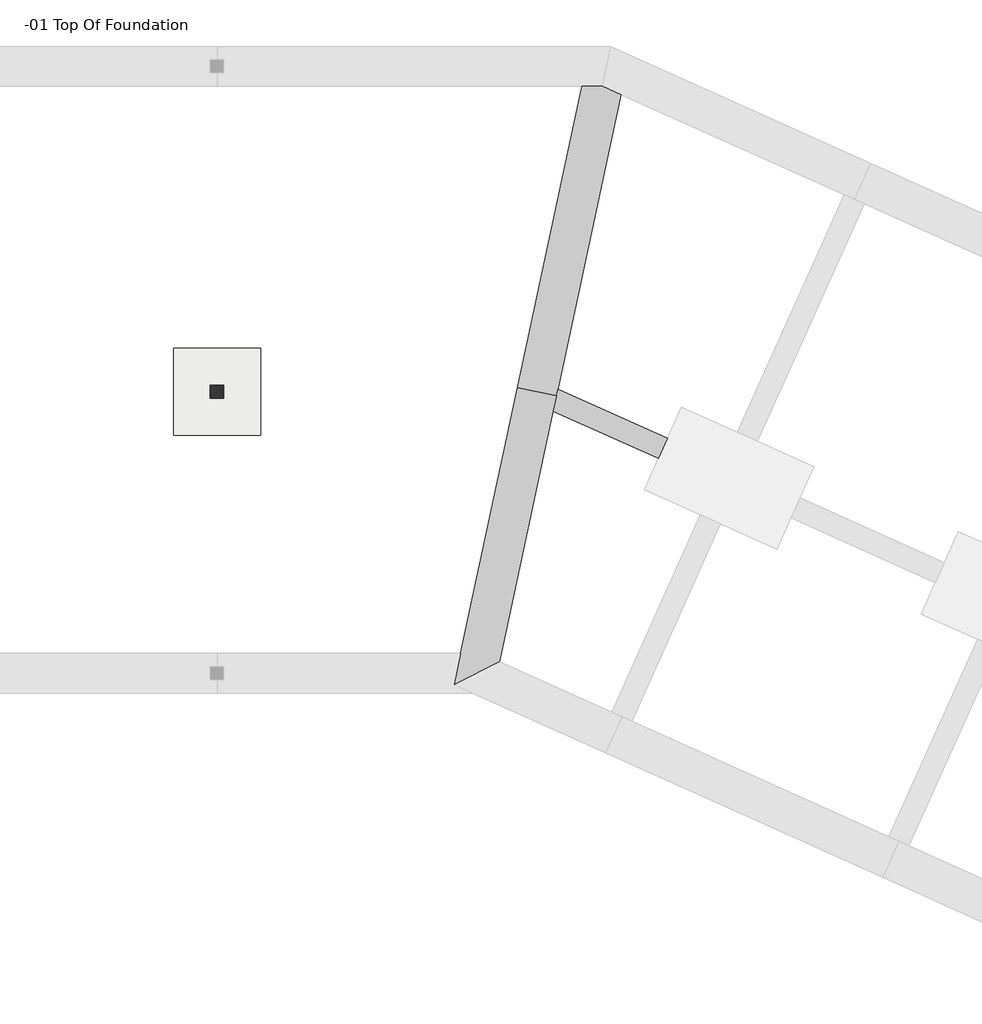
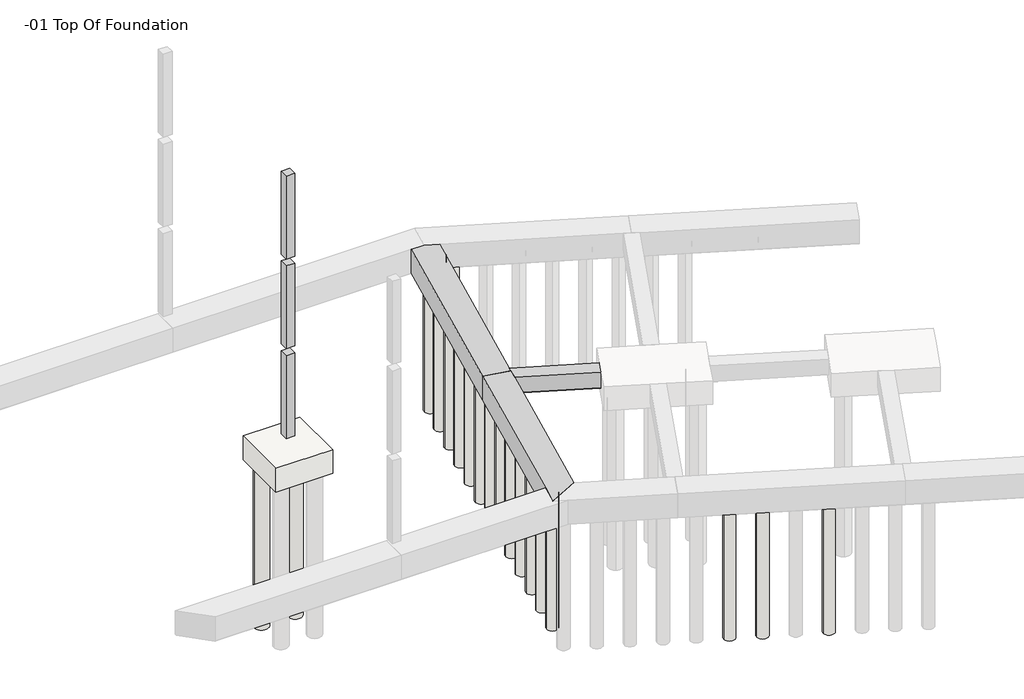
# One storey, part 2 of 6: 20 slabs, 3 beams, 1 column.
"""IFC4 building model written with IfcOpenShell, lengths in millimetres."""

import ifcopenshell
import ifcopenshell.guid

model = None  # the IFC model being written
_history = None  # IfcOwnerHistory: only IFC2X3 demands one
_inside = {}  # id of a spatial element -> (the spatial element, [elements in it])
_under = {}  # id of a project, library or spatial element -> (it, [spatial elements below it])
_declared = {}  # id of a project -> (the project, [libraries it declares])
_typed = {}  # id of a type object -> (the type object, [elements of that type])
_made_of = {}  # id of a material, layer set ... -> (it, [elements and type objects made of it])


def new_model(schema):
    """Start an empty IFC model of exactly this schema.

    Asked for "IFC4X3", IfcOpenShell would pick the latest addendum, in which some entities
    have other attributes; the version numbers below select the first issue.
    IFC2X3 requires an IfcOwnerHistory on every rooted entity: one is made here for all.
    """
    global model, _history
    if schema == "IFC4X3":
        model = ifcopenshell.file(schema_version=(4, 3, 0, 0))
    else:
        model = ifcopenshell.file(schema=schema)
    _inside.clear()
    _under.clear()
    _declared.clear()
    _typed.clear()
    _made_of.clear()
    _history = None
    if model.schema == "IFC2X3":
        org = make("IfcOrganization", Name="unknown")
        user = make(
            "IfcPersonAndOrganization",
            ThePerson=make("IfcPerson", FamilyName="unknown"),
            TheOrganization=org,
        )
        app = make(
            "IfcApplication",
            ApplicationDeveloper=org,
            Version="unknown",
            ApplicationFullName="unknown",
            ApplicationIdentifier="unknown",
        )
        _history = make(
            "IfcOwnerHistory",
            OwningUser=user,
            OwningApplication=app,
            ChangeAction="ADDED",
            CreationDate=0,
        )
    return model


def make(cls, **values):
    """One entity of the class cls with the attributes given. An attribute that is None is left unset."""
    return model.create_entity(
        cls, **{name: value for name, value in values.items() if value is not None}
    )


def rooted(cls, **values):
    """An entity with a GlobalId (a new one), such as an element, a storey or a relation."""
    return make(cls, GlobalId=ifcopenshell.guid.new(), OwnerHistory=_history, **values)


def si_unit(unit_type, name, prefix=None):
    """IfcSIUnit, for example si_unit("LENGTHUNIT", "METRE", prefix="MILLI")."""
    return make("IfcSIUnit", UnitType=unit_type, Prefix=prefix, Name=name)


def assignment(units):
    """IfcUnitAssignment: the units of a project."""
    return None if units is None else make("IfcUnitAssignment", Units=units)


def point(xyz):
    """IfcCartesianPoint."""
    return None if xyz is None else make("IfcCartesianPoint", Coordinates=xyz)


def direction(xyz):
    """IfcDirection."""
    return None if xyz is None else make("IfcDirection", DirectionRatios=xyz)


def frame(location, z_axis=None, x_axis=None):
    """IfcAxis2Placement3D, a coordinate frame: its origin and axes. An axis left out is left unset."""
    return make(
        "IfcAxis2Placement3D",
        Location=point(location),
        Axis=direction(z_axis),
        RefDirection=direction(x_axis),
    )


def frame_2d(location, x_axis=None):
    """IfcAxis2Placement2D, a coordinate frame in the plane: its origin and x axis."""
    return make(
        "IfcAxis2Placement2D", Location=point(location), RefDirection=direction(x_axis)
    )


def origin():
    """The frame at (0, 0, 0) with its axes left unset."""
    return frame((0.0, 0.0, 0.0))


def origin_with_axes():
    """The frame at (0, 0, 0) with the z axis (0, 0, 1) and the x axis (1, 0, 0) written out."""
    return frame((0.0, 0.0, 0.0), z_axis=(0.0, 0.0, 1.0), x_axis=(1.0, 0.0, 0.0))


def place(relative_to, where):
    """IfcLocalPlacement: puts the frame where relative to a parent placement (None: the world)."""
    return make(
        "IfcLocalPlacement", PlacementRelTo=relative_to, RelativePlacement=where
    )


def context(
    kind, dimensions, precision=None, world=None, true_north=None, identifier=None
):
    """IfcGeometricRepresentationContext, for example the 3D "Model" context."""
    return make(
        "IfcGeometricRepresentationContext",
        ContextIdentifier=identifier,
        ContextType=kind,
        CoordinateSpaceDimension=dimensions,
        Precision=precision,
        WorldCoordinateSystem=world,
        TrueNorth=true_north,
    )


def project(units=None, contexts=None):
    """IfcProject with its units and contexts."""
    return rooted(
        "IfcProject",
        Name="project",
        RepresentationContexts=contexts,
        UnitsInContext=assignment(units),
    )


def spatial(cls, under=None, at=None, **own):
    """A site, building, storey or space (cls), placed at a placement, below another one or the project."""
    s = rooted(cls, ObjectPlacement=at, **own)
    if under is not None:
        _under.setdefault(under.id(), (under, []))[1].append(s)
    return s


def polyline(points):
    """IfcPolyline through the points."""
    return make("IfcPolyline", Points=[point(p) for p in points])


def circle_curve(where, radius):
    """IfcCircle in the frame where."""
    return make("IfcCircle", Position=where, Radius=radius)


def trimmed(basis, trim1, trim2, sense, master):
    """IfcTrimmedCurve: the piece of a basis curve between two trims."""
    return make(
        "IfcTrimmedCurve",
        BasisCurve=basis,
        Trim1=trim1,
        Trim2=trim2,
        SenseAgreement=sense,
        MasterRepresentation=master,
    )


def segment(curve, same_sense, transition):
    """IfcCompositeCurveSegment."""
    return make(
        "IfcCompositeCurveSegment",
        Transition=transition,
        SameSense=same_sense,
        ParentCurve=curve,
    )


def composite_curve(segments, self_intersect=None):
    """IfcCompositeCurve: segments joined end to end."""
    return make("IfcCompositeCurve", Segments=segments, SelfIntersect=self_intersect)


def outline(outer, holes=None, kind="AREA"):
    """IfcArbitraryClosedProfileDef: a profile drawn as a closed curve; with holes, ...WithVoids."""
    if holes is None:
        return make("IfcArbitraryClosedProfileDef", ProfileType=kind, OuterCurve=outer)
    return make(
        "IfcArbitraryProfileDefWithVoids",
        ProfileType=kind,
        OuterCurve=outer,
        InnerCurves=holes,
    )


def extrude(swept, where, along, depth):
    """IfcExtrudedAreaSolid: the profile swept, set in the frame where, extruded along a direction by depth."""
    return make(
        "IfcExtrudedAreaSolid",
        SweptArea=swept,
        Position=where,
        ExtrudedDirection=direction(along),
        Depth=depth,
    )


def faces_of(points, faces, orient=None, outer=None):
    """IfcFace entities. A face is a list of loops; a loop is a list of indices into points, from 0.

    orient and outer hold one flag for each loop. By default every Orientation is true, the
    first loop of a face is its IfcFaceOuterBound and the others are IfcFaceBound.
    """
    made = []
    for i, loops in enumerate(faces):
        bounds = []
        for j, loop in enumerate(loops):
            is_outer = j == 0 if outer is None else outer[i][j]
            bounds.append(
                make(
                    "IfcFaceOuterBound" if is_outer else "IfcFaceBound",
                    Bound=make("IfcPolyLoop", Polygon=[points[k] for k in loop]),
                    Orientation=True if orient is None else orient[i][j],
                )
            )
        made.append(make("IfcFace", Bounds=bounds))
    return made


def faceted_brep(points, faces, orient=None, outer=None, voids=None):
    """IfcFacetedBrep: a solid bounded by flat faces; with voids (closed shells), ...WithVoids."""
    shared = [point(p) for p in points]
    hull = make("IfcClosedShell", CfsFaces=faces_of(shared, faces, orient, outer))
    if voids is None:
        return make("IfcFacetedBrep", Outer=hull)
    return make(
        "IfcFacetedBrepWithVoids",
        Outer=hull,
        Voids=[
            make(cls, CfsFaces=faces_of(shared, fs, o, b)) for cls, fs, o, b in voids
        ],
    )


def shape(context_of_items, identifier, shape_type, items):
    """IfcShapeRepresentation: the items that make up one representation, for example the "Body"."""
    return make(
        "IfcShapeRepresentation",
        ContextOfItems=context_of_items,
        RepresentationIdentifier=identifier,
        RepresentationType=shape_type,
        Items=items,
    )


def made_of(thing, what):
    """Note that an element or type object is made of a material, layer set ...; save() writes the relation."""
    if what is not None:
        _made_of.setdefault(what.id(), (what, []))[1].append(thing)
    return thing


def element(
    cls,
    number,
    at=None,
    inside=None,
    cuts=None,
    type_object=None,
    material=None,
    context=None,
    identifier="Body",
    shape_type=None,
    held_by="IfcProductDefinitionShape",
    body=None,
    shapes=None,
    **own,
):
    """One element of the class cls, such as IfcWall. Its Tag is "e" and its number.

    at: its placement. inside: the storey or other place that contains it. cuts: it is an
    opening in that element (IfcRelVoidsElement). A single representation is given by context,
    identifier, shape_type and body (its items); several are given by shapes. held_by: the class
    of the entity that holds the representations. save() writes the other relations.
    """
    e = rooted(cls, Tag="e%d" % number, ObjectPlacement=at, **own)
    if body is not None:
        shapes = [shape(context, identifier, shape_type, body)]
    if shapes is not None:
        e.Representation = make(held_by, Representations=shapes)
    if inside is not None:
        _inside.setdefault(inside.id(), (inside, []))[1].append(e)
    if cuts is not None:
        rooted(
            "IfcRelVoidsElement", RelatingBuildingElement=cuts, RelatedOpeningElement=e
        )
    if type_object is not None:
        _typed.setdefault(type_object.id(), (type_object, []))[1].append(e)
    return made_of(e, material)


def aggregate(whole, parts):
    """IfcRelAggregates: a whole, such as a stair, and the parts it consists of."""
    return rooted("IfcRelAggregates", RelatingObject=whole, RelatedObjects=parts)


def save(model, path):
    """Write the relations noted so far, then the file.

    IfcRelAggregates (storeys below a building ...), IfcRelContainedInSpatialStructure (elements
    in a storey), IfcRelDefinesByType, IfcRelAssociatesMaterial and IfcRelDeclares: one each for
    every whole, place, type object, material and project.
    """
    for whole, parts in _under.values():
        aggregate(whole, parts)
    for where, things in _inside.values():
        rooted(
            "IfcRelContainedInSpatialStructure",
            RelatedElements=things,
            RelatingStructure=where,
        )
    for kind, things in _typed.values():
        rooted("IfcRelDefinesByType", RelatedObjects=things, RelatingType=kind)
    for what, things in _made_of.values():
        rooted("IfcRelAssociatesMaterial", RelatedObjects=things, RelatingMaterial=what)
    for by, libraries in _declared.values():
        rooted("IfcRelDeclares", RelatingContext=by, RelatedDefinitions=libraries)
    model.write(path)


def plane_surface(at):
    """IfcPlane: the flat surface through the origin of the frame at, square to its z axis."""
    return make("IfcPlane", Position=at)


def revolved_surface(curve, axis_point, axis_direction):
    """IfcSurfaceOfRevolution: the curve turned about the line through axis_point along axis_direction."""
    return make(
        "IfcSurfaceOfRevolution",
        SweptCurve=make("IfcArbitraryOpenProfileDef", ProfileType="CURVE", Curve=curve),
        AxisPosition=make("IfcAxis1Placement", Location=point(axis_point), Axis=direction(axis_direction)),
    )


def advanced_brep(points, edges, surfaces, faces):
    """IfcAdvancedBrep: a solid bounded by faces that lie on surfaces and meet in shared edges.

    An edge is (start, end): straight between two places in points (the first is 0);
    or (start, end, curve); or (start, end, curve, False) where it runs against its curve.
    A face is (place in surfaces, loops), or (place, loops, False) where it looks against
    its surface's normal. A loop lists edges by number (the first is 1), with a minus sign
    where the edge is run from its end to its start. The first loop is the outer one.
    """
    corners = [point(p) for p in points]
    vertices = [make("IfcVertexPoint", VertexGeometry=c) for c in corners]
    made = []
    for start, end, *more in edges:
        made.append(
            make(
                "IfcEdgeCurve",
                EdgeStart=vertices[start],
                EdgeEnd=vertices[end],
                EdgeGeometry=more[0] if more else make("IfcPolyline", Points=[corners[start], corners[end]]),
                SameSense=more[1] if len(more) > 1 else True,
            )
        )
    hull = []
    for where, loops, *sense in faces:
        bounds = []
        for j, loop in enumerate(loops):
            ring = [make("IfcOrientedEdge", EdgeElement=made[abs(k) - 1], Orientation=k > 0) for k in loop]
            bounds.append(
                make(
                    "IfcFaceOuterBound" if j == 0 else "IfcFaceBound",
                    Bound=make("IfcEdgeLoop", EdgeList=ring),
                    Orientation=True,
                )
            )
        hull.append(make("IfcAdvancedFace", Bounds=bounds, FaceSurface=surfaces[where], SameSense=sense[0] if sense else True))
    return make("IfcAdvancedBrep", Outer=make("IfcClosedShell", CfsFaces=hull))


model = new_model("IFC4")

# Units and contexts
model_context = context("Model", 3, world=origin())
ifc_project = project(units=[si_unit("LENGTHUNIT", "METRE", prefix="MILLI")], contexts=[model_context])

# Site, building, storey
site = spatial("IfcSite", under=ifc_project)
building = spatial("IfcBuilding", under=site)
storey = spatial("IfcBuildingStorey", under=building, Name="-01 Top Of Foundation", Elevation=-304.8)

# Beams
placement = place(None, origin())
element("IfcBeam", 1, ObjectType="Ring Beam : 12 x 24", at=placement, inside=storey, context=model_context, shape_type="Brep", body=[
    faceted_brep([(29873.354996, -7443.2933987, -304.8), (29839.4542887, -7601.4966994, -304.8), (29764.4978532, -7951.2933987, -304.8), (32188.6819449, -9040.2317073, -304.8), (32396.8380425, -8576.8365854, -304.8), (29764.4978532, -7951.2933987, -889.0), (32188.6819449, -9040.2317073, -889.0), (29769.9407103, -7925.8933987, -914.4), (32199.0897498, -9017.0619512, -914.4), (29867.9121389, -7468.6933987, -914.4), (32386.4302376, -8600.0063415, -914.4), (29873.354996, -7443.2933987, -889.0), (32396.8380425, -8576.8365854, -889.0)], [[[0, 1, 2, 3, 4]], [[2, 5, 6, 3]], [[5, 7, 8, 6]], [[7, 9, 10, 8]], [[9, 11, 12, 10]], [[11, 0, 4, 12]], [[11, 9, 7, 5, 2, 1, 0]], [[4, 3, 6, 8, 10, 12]]]),
])
element("IfcBeam", 2, ObjectType="Ring Beam : 16 x 32", at=placement, inside=storey, context=model_context, shape_type="AdvancedBrep", body=[
    advanced_brep(
    [(28945.3517613, -7409.9033006, -1193.8), (28945.3517613, -7409.9033006, -304.8), (30435.2167543, -457.2, -304.8), (30435.2167543, -457.2, -1193.8), (29839.4542887, -7601.4966994, -304.8), (29873.354996, -7443.2933987, -304.8), (31329.3192817, -648.7933987, -304.8), (30902.7958822, -457.2, -304.8), (28970.1879426, -7415.2253395, -1219.2), (30466.6362297, -431.8, -1219.2), (29814.6181074, -7596.1746605, -1219.2), (30908.2387393, -431.8, -1219.2), (31311.0663945, -612.749321, -1219.2), (30584.6857566, -993.4472527, -1219.2), (30991.0857566, -993.4472527, -1219.2), (30371.8042024, -1986.8945054, -1219.2), (30778.2042024, -1986.8945054, -1219.2), (30158.9226483, -2980.3417581, -1219.2), (30565.3226483, -2980.3417581, -1219.2), (29946.0410941, -3973.7890108, -1219.2), (30352.4410941, -3973.7890108, -1219.2), (29733.15954, -4967.2362635, -1219.2), (30139.55954, -4967.2362635, -1219.2), (29520.2779858, -5960.6835162, -1219.2), (29926.6779858, -5960.6835162, -1219.2), (29307.3964317, -6954.1307689, -1219.2), (29713.7964317, -6954.1307689, -1219.2), (31329.3192817, -648.7933987, -1193.8), (29839.4542887, -7601.4966994, -1193.8), (30902.7958822, -457.2, -1193.8), (30991.0857566, -993.4472527, -1066.8), (30584.6857566, -993.4472527, -1066.8), (30778.2042024, -1986.8945054, -1066.8), (30371.8042024, -1986.8945054, -1066.8), (30565.3226483, -2980.3417581, -1066.8), (30158.9226483, -2980.3417581, -1066.8), (30352.4410941, -3973.7890108, -1066.8), (29946.0410941, -3973.7890108, -1066.8), (30139.55954, -4967.2362635, -1066.8), (29733.15954, -4967.2362635, -1066.8), (29926.6779858, -5960.6835162, -1066.8), (29520.2779858, -5960.6835162, -1066.8), (29713.7964317, -6954.1307689, -1066.8), (29307.3964317, -6954.1307689, -1066.8)],
    [
        (0, 1),
        (1, 2),
        (2, 3),
        (3, 0),
        (1, 4),
        (4, 5),
        (5, 6),
        (6, 7),
        (7, 2),
        (8, 0),
        (3, 9),
        (9, 8),
        (10, 8),
        (9, 11),
        (11, 12),
        (12, 10),
        (13, 14, circle_curve(frame((30787.8857566, -993.4472527, -1219.2), z_axis=(0.0, 0.0, 1.0), x_axis=(1.0, 0.0, 0.0)), 203.2)),
        (14, 13, circle_curve(frame((30787.8857566, -993.4472527, -1219.2), z_axis=(0.0, 0.0, 1.0), x_axis=(1.0, 0.0, 0.0)), 203.2)),
        (15, 16, circle_curve(frame((30575.0042024, -1986.8945054, -1219.2), z_axis=(0.0, 0.0, 1.0), x_axis=(1.0, 0.0, 0.0)), 203.2)),
        (16, 15, circle_curve(frame((30575.0042024, -1986.8945054, -1219.2), z_axis=(0.0, 0.0, 1.0), x_axis=(1.0, 0.0, 0.0)), 203.2)),
        (17, 18, circle_curve(frame((30362.1226483, -2980.3417581, -1219.2), z_axis=(0.0, 0.0, 1.0), x_axis=(1.0, 0.0, 0.0)), 203.2)),
        (18, 17, circle_curve(frame((30362.1226483, -2980.3417581, -1219.2), z_axis=(0.0, 0.0, 1.0), x_axis=(1.0, 0.0, 0.0)), 203.2)),
        (19, 20, circle_curve(frame((30149.2410941, -3973.7890108, -1219.2), z_axis=(0.0, 0.0, 1.0), x_axis=(1.0, 0.0, 0.0)), 203.2)),
        (20, 19, circle_curve(frame((30149.2410941, -3973.7890108, -1219.2), z_axis=(0.0, 0.0, 1.0), x_axis=(1.0, 0.0, 0.0)), 203.2)),
        (21, 22, circle_curve(frame((29936.35954, -4967.2362635, -1219.2), z_axis=(0.0, 0.0, 1.0), x_axis=(1.0, 0.0, 0.0)), 203.2)),
        (22, 21, circle_curve(frame((29936.35954, -4967.2362635, -1219.2), z_axis=(0.0, 0.0, 1.0), x_axis=(1.0, 0.0, 0.0)), 203.2)),
        (23, 24, circle_curve(frame((29723.4779858, -5960.6835162, -1219.2), z_axis=(0.0, 0.0, 1.0), x_axis=(1.0, 0.0, 0.0)), 203.2)),
        (24, 23, circle_curve(frame((29723.4779858, -5960.6835162, -1219.2), z_axis=(0.0, 0.0, 1.0), x_axis=(1.0, 0.0, 0.0)), 203.2)),
        (25, 26, circle_curve(frame((29510.5964317, -6954.1307689, -1219.2), z_axis=(0.0, 0.0, 1.0), x_axis=(1.0, 0.0, 0.0)), 203.2)),
        (26, 25, circle_curve(frame((29510.5964317, -6954.1307689, -1219.2), z_axis=(0.0, 0.0, 1.0), x_axis=(1.0, 0.0, 0.0)), 203.2)),
        (12, 27),
        (27, 28),
        (28, 10),
        (27, 6),
        (4, 28),
        (11, 29),
        (29, 27),
        (29, 7),
        (30, 31, circle_curve(frame((30787.8857566, -993.4472527, -1066.8), z_axis=(0.0, 0.0, -1.0), x_axis=(1.0, 0.0, 0.0)), 203.2)),
        (31, 30, circle_curve(frame((30787.8857566, -993.4472527, -1066.8), z_axis=(0.0, 0.0, -1.0), x_axis=(1.0, 0.0, 0.0)), 203.2)),
        (30, 14),
        (13, 31),
        (32, 33, circle_curve(frame((30575.0042024, -1986.8945054, -1066.8), z_axis=(0.0, 0.0, -1.0), x_axis=(1.0, 0.0, 0.0)), 203.2)),
        (33, 32, circle_curve(frame((30575.0042024, -1986.8945054, -1066.8), z_axis=(0.0, 0.0, -1.0), x_axis=(1.0, 0.0, 0.0)), 203.2)),
        (32, 16),
        (15, 33),
        (34, 35, circle_curve(frame((30362.1226483, -2980.3417581, -1066.8), z_axis=(0.0, 0.0, -1.0), x_axis=(1.0, 0.0, 0.0)), 203.2)),
        (35, 34, circle_curve(frame((30362.1226483, -2980.3417581, -1066.8), z_axis=(0.0, 0.0, -1.0), x_axis=(1.0, 0.0, 0.0)), 203.2)),
        (34, 18),
        (17, 35),
        (36, 37, circle_curve(frame((30149.2410941, -3973.7890108, -1066.8), z_axis=(0.0, 0.0, -1.0), x_axis=(1.0, 0.0, 0.0)), 203.2)),
        (37, 36, circle_curve(frame((30149.2410941, -3973.7890108, -1066.8), z_axis=(0.0, 0.0, -1.0), x_axis=(1.0, 0.0, 0.0)), 203.2)),
        (36, 20),
        (19, 37),
        (38, 39, circle_curve(frame((29936.35954, -4967.2362635, -1066.8), z_axis=(0.0, 0.0, -1.0), x_axis=(1.0, 0.0, 0.0)), 203.2)),
        (39, 38, circle_curve(frame((29936.35954, -4967.2362635, -1066.8), z_axis=(0.0, 0.0, -1.0), x_axis=(1.0, 0.0, 0.0)), 203.2)),
        (38, 22),
        (21, 39),
        (40, 41, circle_curve(frame((29723.4779858, -5960.6835162, -1066.8), z_axis=(0.0, 0.0, -1.0), x_axis=(1.0, 0.0, 0.0)), 203.2)),
        (41, 40, circle_curve(frame((29723.4779858, -5960.6835162, -1066.8), z_axis=(0.0, 0.0, -1.0), x_axis=(1.0, 0.0, 0.0)), 203.2)),
        (40, 24),
        (23, 41),
        (42, 43, circle_curve(frame((29510.5964317, -6954.1307689, -1066.8), z_axis=(0.0, 0.0, -1.0), x_axis=(1.0, 0.0, 0.0)), 203.2)),
        (43, 42, circle_curve(frame((29510.5964317, -6954.1307689, -1066.8), z_axis=(0.0, 0.0, -1.0), x_axis=(1.0, 0.0, 0.0)), 203.2)),
        (42, 26),
        (25, 43),
        (3, 29),
    ],
    [
        plane_surface(frame((29000.0518051, -7154.6364295, -304.8), z_axis=(-0.9778024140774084, 0.20952908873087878, 0.0), x_axis=(0.20952908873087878, 0.9778024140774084, 0.0))),
        plane_surface(frame((29894.1543326, -7346.2298282, -304.8), z_axis=(0.0, 0.0, 1.0000000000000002), x_axis=(0.20952908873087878, 0.9778024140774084, 0.0))),
        plane_surface(frame((29000.0518051, -7154.6364295, -1193.8), z_axis=(-0.6914107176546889, 0.14815943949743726, -0.7071067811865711), x_axis=(0.20952908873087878, 0.9778024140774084, 0.0))),
        plane_surface(frame((29024.8879864, -7159.9584683, -1219.2), z_axis=(0.0, 0.0, -1.0000000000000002), x_axis=(0.20952908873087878, 0.9778024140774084, 0.0))),
        plane_surface(frame((29869.3181512, -7340.9077894, -1219.2), z_axis=(0.691410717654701, -0.14815943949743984, -0.7071067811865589), x_axis=(0.20952908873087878, 0.9778024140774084, 0.0))),
        plane_surface(frame((29894.1543326, -7346.2298282, -1193.8), z_axis=(0.9778024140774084, -0.20952908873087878, 0.0), x_axis=(0.20952908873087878, 0.9778024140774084, 0.0))),
        plane_surface(frame((31351.3119647, -630.8275451, -1219.2), z_axis=(0.2897413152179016, 0.645019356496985, 0.7071067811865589), x_axis=(0.9121951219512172, -0.40975609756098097, 0.0))),
        plane_surface(frame((31340.9041598, -653.9973012, -1193.8), z_axis=(0.40975609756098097, 0.9121951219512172, 0.0), x_axis=(0.9121951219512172, -0.40975609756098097, 0.0))),
        plane_surface(frame((29392.403025, -7505.7, -304.8), z_axis=(-0.20952908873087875, -0.9778024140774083, 0.0), x_axis=(0.9778024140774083, -0.20952908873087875, 0.0))),
        plane_surface(frame((30991.0857566, -993.4472527, -1066.8), z_axis=(0.0, 0.0, -1.0), x_axis=(0.0, 1.0, 0.0))),
        revolved_surface(polyline([(30991.0857566, -993.4472527, -1066.8000000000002), (30991.0857566, -993.4472527, -1219.1999999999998)]), (30787.8857566, -993.4472527, -6096.0), (0.0, 0.0, 1.0)),
        plane_surface(frame((30778.2042024, -1986.8945054, -1066.8), z_axis=(0.0, 0.0, -1.0), x_axis=(0.0, 1.0, 0.0))),
        revolved_surface(polyline([(30778.2042024, -1986.8945054, -1066.8000000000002), (30778.2042024, -1986.8945054, -1219.1999999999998)]), (30575.0042024, -1986.8945054, -6096.0), (0.0, 0.0, 1.0)),
        plane_surface(frame((30565.3226483, -2980.3417581, -1066.8), z_axis=(0.0, 0.0, -1.0), x_axis=(0.0, 1.0, 0.0))),
        revolved_surface(polyline([(30565.3226483, -2980.3417581, -1066.8000000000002), (30565.3226483, -2980.3417581, -1219.1999999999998)]), (30362.1226483, -2980.3417581, -6096.0), (0.0, 0.0, 1.0)),
        plane_surface(frame((30352.4410941, -3973.7890108, -1066.8), z_axis=(0.0, 0.0, -1.0), x_axis=(0.0, 1.0, 0.0))),
        revolved_surface(polyline([(30352.441094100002, -3973.7890108, -1066.8000000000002), (30352.441094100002, -3973.7890108, -1219.1999999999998)]), (30149.2410941, -3973.7890108, -6096.0), (0.0, 0.0, 1.0)),
        plane_surface(frame((30139.55954, -4967.2362635, -1066.8), z_axis=(0.0, 0.0, -1.0), x_axis=(0.0, 1.0, 0.0))),
        revolved_surface(polyline([(30139.559540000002, -4967.2362635, -1066.8000000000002), (30139.559540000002, -4967.2362635, -1219.1999999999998)]), (29936.35954, -4967.2362635, -6096.0), (0.0, 0.0, 1.0)),
        plane_surface(frame((29926.6779858, -5960.6835162, -1066.8), z_axis=(0.0, 0.0, -1.0), x_axis=(0.0, 1.0, 0.0))),
        revolved_surface(polyline([(29926.6779858, -5960.6835162, -1066.8000000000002), (29926.6779858, -5960.6835162, -1219.1999999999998)]), (29723.4779858, -5960.6835162, -6096.0), (0.0, 0.0, 1.0)),
        plane_surface(frame((29713.7964317, -6954.1307689, -1066.8), z_axis=(0.0, 0.0, -1.0), x_axis=(0.0, 1.0, 0.0))),
        revolved_surface(polyline([(29713.7964317, -6954.1307689, -1066.8000000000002), (29713.7964317, -6954.1307689, -1219.1999999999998)]), (29510.5964317, -6954.1307689, -6096.0), (0.0, 0.0, 1.0)),
        plane_surface(frame((22021.8000006, -444.5, -1206.5), z_axis=(0.0, 0.7071067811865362, 0.7071067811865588), x_axis=(0.0, -0.7071067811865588, 0.7071067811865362))),
        plane_surface(frame((22021.8000006, -457.2, -749.3), z_axis=(0.0, 1.0, 0.0), x_axis=(0.0, 0.0, 1.0))),
    ],
    [
        (0, [[1, 2, 3, 4]]),
        (1, [[5, 6, 7, 8, 9, -2]]),
        (2, [[10, -4, 11, 12]]),
        (3, [[13, -12, 14, 15, 16], [17, 18], [19, 20], [21, 22], [23, 24], [25, 26], [27, 28], [29, 30]]),
        (4, [[31, 32, 33, -16]]),
        (5, [[34, -7, -6, 35, -32]]),
        (6, [[-31, -15, 36, 37]]),
        (7, [[-34, -37, 38, -8]]),
        (8, [[-5, -1, -10, -13, -33, -35]]),
        (9, [[39, 40]]),
        (10, [[-39, 41, -17, 42]]),
        (10, [[-40, -42, -18, -41]]),
        (11, [[43, 44]]),
        (12, [[-43, 45, -19, 46]]),
        (12, [[-44, -46, -20, -45]]),
        (13, [[47, 48]]),
        (14, [[-47, 49, -21, 50]]),
        (14, [[-48, -50, -22, -49]]),
        (15, [[51, 52]]),
        (16, [[-51, 53, -23, 54]]),
        (16, [[-52, -54, -24, -53]]),
        (17, [[55, 56]]),
        (18, [[-55, 57, -25, 58]]),
        (18, [[-56, -58, -26, -57]]),
        (19, [[59, 60]]),
        (20, [[-59, 61, -27, 62]]),
        (20, [[-60, -62, -28, -61]]),
        (21, [[63, 64]]),
        (22, [[-63, 65, -29, 66]]),
        (22, [[-64, -66, -30, -65]]),
        (23, [[67, -36, -14, -11]]),
        (24, [[-67, -3, -9, -38]]),
    ],
),
])
element("IfcBeam", 3, ObjectType="Ring Beam : 16 x 32", at=placement, inside=storey, context=model_context, shape_type="AdvancedBrep", body=[
    advanced_brep(
    [(27477.2581969, -14261.0066013, -304.8), (27632.1453257, -13538.2, -304.8), (28945.3517613, -7409.9033006, -304.8), (28945.3517613, -7409.9033006, -1193.8), (27632.1453257, -13538.2, -1193.8), (27477.2581969, -14261.0066013, -1193.8), (28526.2478532, -13729.7933987, -304.8), (29764.4978532, -7951.2933987, -304.8), (29839.4542887, -7601.4966994, -304.8), (28970.1879426, -7415.2253395, -1219.2), (27652.6790868, -13563.6, -1219.2), (27506.3967985, -14246.250679, -1219.2), (29814.6181074, -7596.1746605, -1219.2), (28497.1092516, -13744.549321, -1219.2), (28185.4716207, -13902.3640554, -1219.2), (27801.6212595, -13995.4, -1219.2), (27822.9184202, -14085.9626691, -1219.2), (29094.5148775, -7947.5780216, -1219.2), (29500.9148775, -7947.5780216, -1219.2), (28881.6333234, -8941.0252743, -1219.2), (29288.0333234, -8941.0252743, -1219.2), (28668.7517692, -9934.472527, -1219.2), (29075.1517692, -9934.472527, -1219.2), (28455.8702151, -10927.9197797, -1219.2), (28862.2702151, -10927.9197797, -1219.2), (28242.9886609, -11921.3670324, -1219.2), (28649.3886609, -11921.3670324, -1219.2), (28034.6176562, -12872.2379743, -1219.2), (28431.9965573, -12957.390596, -1219.2), (29839.4542887, -7601.4966994, -1193.8), (28526.2478532, -13729.7933987, -1193.8), (27822.9184202, -14085.9626691, -1066.8), (28185.4716207, -13902.3640554, -1066.8), (27801.6212595, -13995.4, -1066.8), (29500.9148775, -7947.5780216, -1066.8), (29094.5148775, -7947.5780216, -1066.8), (29288.0333234, -8941.0252743, -1066.8), (28881.6333234, -8941.0252743, -1066.8), (29075.1517692, -9934.472527, -1066.8), (28668.7517692, -9934.472527, -1066.8), (28862.2702151, -10927.9197797, -1066.8), (28455.8702151, -10927.9197797, -1066.8), (28649.3886609, -11921.3670324, -1066.8), (28242.9886609, -11921.3670324, -1066.8), (28431.9965573, -12957.390596, -1066.8), (28034.6176562, -12872.2379743, -1066.8)],
    [
        (0, 1),
        (1, 2),
        (2, 3),
        (3, 4),
        (4, 5),
        (5, 0),
        (0, 6),
        (6, 7),
        (7, 8),
        (8, 2),
        (3, 9),
        (9, 10),
        (10, 11),
        (11, 5),
        (9, 12),
        (12, 13),
        (13, 14),
        (14, 15, circle_curve(frame((28004.8212595, -13995.4, -1219.2), z_axis=(0.0, 0.0, 1.0), x_axis=(1.0, 0.0, 0.0)), 203.2)),
        (15, 16, circle_curve(frame((28004.8212595, -13995.4, -1219.2), z_axis=(0.0, 0.0, 1.0), x_axis=(1.0, 0.0, 0.0)), 203.2)),
        (16, 11),
        (17, 18, circle_curve(frame((29297.7148775, -7947.5780216, -1219.2), z_axis=(0.0, 0.0, 1.0), x_axis=(1.0, 0.0, 0.0)), 203.2)),
        (18, 17, circle_curve(frame((29297.7148775, -7947.5780216, -1219.2), z_axis=(0.0, 0.0, 1.0), x_axis=(1.0, 0.0, 0.0)), 203.2)),
        (19, 20, circle_curve(frame((29084.8333234, -8941.0252743, -1219.2), z_axis=(0.0, 0.0, 1.0), x_axis=(1.0, 0.0, 0.0)), 203.2)),
        (20, 19, circle_curve(frame((29084.8333234, -8941.0252743, -1219.2), z_axis=(0.0, 0.0, 1.0), x_axis=(1.0, 0.0, 0.0)), 203.2)),
        (21, 22, circle_curve(frame((28871.9517692, -9934.472527, -1219.2), z_axis=(0.0, 0.0, 1.0), x_axis=(1.0, 0.0, 0.0)), 203.2)),
        (22, 21, circle_curve(frame((28871.9517692, -9934.472527, -1219.2), z_axis=(0.0, 0.0, 1.0), x_axis=(1.0, 0.0, 0.0)), 203.2)),
        (23, 24, circle_curve(frame((28659.0702151, -10927.9197797, -1219.2), z_axis=(0.0, 0.0, 1.0), x_axis=(1.0, 0.0, 0.0)), 203.2)),
        (24, 23, circle_curve(frame((28659.0702151, -10927.9197797, -1219.2), z_axis=(0.0, 0.0, 1.0), x_axis=(1.0, 0.0, 0.0)), 203.2)),
        (25, 26, circle_curve(frame((28446.1886609, -11921.3670324, -1219.2), z_axis=(0.0, 0.0, 1.0), x_axis=(1.0, 0.0, 0.0)), 203.2)),
        (26, 25, circle_curve(frame((28446.1886609, -11921.3670324, -1219.2), z_axis=(0.0, 0.0, 1.0), x_axis=(1.0, 0.0, 0.0)), 203.2)),
        (27, 28, circle_curve(frame((28233.3071068, -12914.8142851, -1219.2), z_axis=(0.0, 0.0, 1.0), x_axis=(0.9778024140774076, -0.20952908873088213, 0.0)), 203.2)),
        (28, 27, circle_curve(frame((28233.3071068, -12914.8142851, -1219.2), z_axis=(0.0, 0.0, 1.0), x_axis=(0.9778024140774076, -0.20952908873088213, 0.0)), 203.2)),
        (12, 29),
        (29, 30),
        (30, 13),
        (6, 30),
        (29, 8),
        (16, 31),
        (31, 32),
        (32, 14),
        (33, 32, circle_curve(frame((28004.8212595, -13995.4, -1066.8), z_axis=(0.0, 0.0, -1.0), x_axis=(1.0, 0.0, 0.0)), 203.2)),
        (31, 33, circle_curve(frame((28004.8212595, -13995.4, -1066.8), z_axis=(0.0, 0.0, -1.0), x_axis=(1.0, 0.0, 0.0)), 203.2)),
        (15, 33),
        (34, 35, circle_curve(frame((29297.7148775, -7947.5780216, -1066.8), z_axis=(0.0, 0.0, -1.0), x_axis=(1.0, 0.0, 0.0)), 203.2)),
        (35, 34, circle_curve(frame((29297.7148775, -7947.5780216, -1066.8), z_axis=(0.0, 0.0, -1.0), x_axis=(1.0, 0.0, 0.0)), 203.2)),
        (34, 18),
        (17, 35),
        (36, 37, circle_curve(frame((29084.8333234, -8941.0252743, -1066.8), z_axis=(0.0, 0.0, -1.0), x_axis=(1.0, 0.0, 0.0)), 203.2)),
        (37, 36, circle_curve(frame((29084.8333234, -8941.0252743, -1066.8), z_axis=(0.0, 0.0, -1.0), x_axis=(1.0, 0.0, 0.0)), 203.2)),
        (36, 20),
        (19, 37),
        (38, 39, circle_curve(frame((28871.9517692, -9934.472527, -1066.8), z_axis=(0.0, 0.0, -1.0), x_axis=(1.0, 0.0, 0.0)), 203.2)),
        (39, 38, circle_curve(frame((28871.9517692, -9934.472527, -1066.8), z_axis=(0.0, 0.0, -1.0), x_axis=(1.0, 0.0, 0.0)), 203.2)),
        (38, 22),
        (21, 39),
        (40, 41, circle_curve(frame((28659.0702151, -10927.9197797, -1066.8), z_axis=(0.0, 0.0, -1.0), x_axis=(1.0, 0.0, 0.0)), 203.2)),
        (41, 40, circle_curve(frame((28659.0702151, -10927.9197797, -1066.8), z_axis=(0.0, 0.0, -1.0), x_axis=(1.0, 0.0, 0.0)), 203.2)),
        (40, 24),
        (23, 41),
        (42, 43, circle_curve(frame((28446.1886609, -11921.3670324, -1066.8), z_axis=(0.0, 0.0, -1.0), x_axis=(1.0, 0.0, 0.0)), 203.2)),
        (43, 42, circle_curve(frame((28446.1886609, -11921.3670324, -1066.8), z_axis=(0.0, 0.0, -1.0), x_axis=(1.0, 0.0, 0.0)), 203.2)),
        (42, 26),
        (25, 43),
        (44, 45, circle_curve(frame((28233.3071068, -12914.8142851, -1066.8), z_axis=(0.0, 0.0, -1.0), x_axis=(0.9778024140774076, -0.20952908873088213, 0.0)), 203.2)),
        (45, 44, circle_curve(frame((28233.3071068, -12914.8142851, -1066.8), z_axis=(0.0, 0.0, -1.0), x_axis=(0.9778024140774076, -0.20952908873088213, 0.0)), 203.2)),
        (44, 28),
        (27, 45),
    ],
    [
        plane_surface(frame((27651.0330246, -13450.0574051, -304.8), z_axis=(-0.9778024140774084, 0.20952908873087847, 0.0), x_axis=(0.20952908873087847, 0.9778024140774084, 0.0))),
        plane_surface(frame((28545.1355521, -13641.6508038, -304.8), z_axis=(0.0, 0.0, 1.0), x_axis=(0.20952908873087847, 0.9778024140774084, 0.0))),
        plane_surface(frame((27651.0330246, -13450.0574051, -1193.8), z_axis=(-0.691410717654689, 0.14815943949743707, -0.7071067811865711), x_axis=(0.20952908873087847, 0.9778024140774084, 0.0))),
        plane_surface(frame((27675.869206, -13455.3794439, -1219.2), z_axis=(0.0, 0.0, -1.0), x_axis=(0.20952908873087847, 0.9778024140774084, 0.0))),
        plane_surface(frame((28520.2993708, -13636.328765, -1219.2), z_axis=(0.691410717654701, -0.14815943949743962, -0.7071067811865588), x_axis=(0.20952908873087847, 0.9778024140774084, 0.0))),
        plane_surface(frame((28545.1355521, -13641.6508038, -1193.8), z_axis=(0.9778024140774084, -0.20952908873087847, 0.0), x_axis=(0.20952908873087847, 0.9778024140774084, 0.0))),
        plane_surface(frame((29392.403025, -7505.7, -304.8), z_axis=(0.20952908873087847, 0.9778024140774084, 0.0), x_axis=(0.9778024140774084, -0.20952908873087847, 0.0))),
        plane_surface(frame((28526.2478532, -13729.7933987, -304.8), z_axis=(0.4517787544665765, -0.8921300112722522, 0.0), x_axis=(0.8921300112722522, 0.4517787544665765, 0.0))),
        plane_surface(frame((28208.0212595, -13995.4, -1066.8), z_axis=(0.0, 0.0, -1.0), x_axis=(0.0, 1.0, 0.0))),
        revolved_surface(polyline([(28208.0212595, -13995.4, -1066.8000000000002), (28208.0212595, -13995.4, -1219.1999999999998)]), (28004.8212595, -13995.4, -6096.0), (0.0, 0.0, 1.0)),
        plane_surface(frame((29500.9148775, -7947.5780216, -1066.8), z_axis=(0.0, 0.0, -1.0), x_axis=(0.0, 1.0, 0.0))),
        revolved_surface(polyline([(29500.9148775, -7947.5780216, -1066.8000000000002), (29500.9148775, -7947.5780216, -1219.1999999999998)]), (29297.7148775, -7947.5780216, -6096.0), (0.0, 0.0, 1.0)),
        plane_surface(frame((29288.0333234, -8941.0252743, -1066.8), z_axis=(0.0, 0.0, -1.0), x_axis=(0.0, 1.0, 0.0))),
        revolved_surface(polyline([(29288.0333234, -8941.0252743, -1066.8000000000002), (29288.0333234, -8941.0252743, -1219.1999999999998)]), (29084.8333234, -8941.0252743, -6096.0), (0.0, 0.0, 1.0)),
        plane_surface(frame((29075.1517692, -9934.472527, -1066.8), z_axis=(0.0, 0.0, -1.0), x_axis=(0.0, 1.0, 0.0))),
        revolved_surface(polyline([(29075.1517692, -9934.472527, -1066.8000000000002), (29075.1517692, -9934.472527, -1219.1999999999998)]), (28871.9517692, -9934.472527, -6096.0), (0.0, 0.0, 1.0)),
        plane_surface(frame((28862.2702151, -10927.9197797, -1066.8), z_axis=(0.0, 0.0, -1.0), x_axis=(0.0, 1.0, 0.0))),
        revolved_surface(polyline([(28862.2702151, -10927.9197797, -1066.8000000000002), (28862.2702151, -10927.9197797, -1219.1999999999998)]), (28659.0702151, -10927.9197797, -6096.0), (0.0, 0.0, 1.0)),
        plane_surface(frame((28649.3886609, -11921.3670324, -1066.8), z_axis=(0.0, 0.0, -1.0), x_axis=(0.0, 1.0, 0.0))),
        revolved_surface(polyline([(28649.3886609, -11921.3670324, -1066.8000000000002), (28649.3886609, -11921.3670324, -1219.1999999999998)]), (28446.1886609, -11921.3670324, -6096.0), (0.0, 0.0, 1.0)),
        plane_surface(frame((28431.9965573, -12957.390596, -1066.8), z_axis=(0.0, 0.0, -1.0), x_axis=(0.20952908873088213, 0.9778024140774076, 0.0))),
        revolved_surface(polyline([(28431.996557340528, -12957.390595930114, -1066.8000000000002), (28431.996557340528, -12957.390595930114, -1219.1999999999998)]), (28233.3071068, -12914.8142851, -6096.0), (0.0, 0.0, 1.0)),
    ],
    [
        (0, [[1, 2, 3, 4, 5, 6]]),
        (1, [[-2, -1, 7, 8, 9, 10]]),
        (2, [[-5, -4, 11, 12, 13, 14]]),
        (3, [[-13, -12, 15, 16, 17, 18, 19, 20], [21, 22], [23, 24], [25, 26], [27, 28], [29, 30], [31, 32]]),
        (4, [[-16, 33, 34, 35]]),
        (5, [[-9, -8, 36, -34, 37]]),
        (6, [[-37, -33, -15, -11, -3, -10]]),
        (7, [[-7, -6, -14, -20, 38, 39, 40, -17, -35, -36]]),
        (8, [[41, -39, 42]]),
        (9, [[-42, -38, -19, 43]]),
        (9, [[-41, -43, -18, -40]]),
        (10, [[44, 45]]),
        (11, [[-44, 46, -21, 47]]),
        (11, [[-45, -47, -22, -46]]),
        (12, [[48, 49]]),
        (13, [[-48, 50, -23, 51]]),
        (13, [[-49, -51, -24, -50]]),
        (14, [[52, 53]]),
        (15, [[-52, 54, -25, 55]]),
        (15, [[-53, -55, -26, -54]]),
        (16, [[56, 57]]),
        (17, [[-56, 58, -27, 59]]),
        (17, [[-57, -59, -28, -58]]),
        (18, [[60, 61]]),
        (19, [[-60, 62, -29, 63]]),
        (19, [[-61, -63, -30, -62]]),
        (20, [[64, 65]]),
        (21, [[-64, 66, -31, 67]]),
        (21, [[-65, -67, -32, -66]]),
    ],
),
])

# Column
element("IfcColumn", 4, ObjectType="Concrete-Rectangular-Column : 12 x 12", at=placement, inside=storey, context=model_context, shape_type="SweptSolid", body=[
    extrude(outline(polyline([(22161.5, -7353.3), (22161.5, -7658.1), (21856.7, -7658.1), (21856.7, -7353.3), (22161.5, -7353.3)])), frame((0.0, 0.0, 6705.6), z_axis=(0.0, 0.0, 1.0), x_axis=(1.0, 0.0, 0.0)), (0.0, 0.0, 1.0), 3098.8),
    extrude(outline(polyline([(22161.5, -7353.3), (22161.5, -7658.1), (21856.7, -7658.1), (21856.7, -7353.3), (22161.5, -7353.3)])), origin_with_axes(), (0.0, 0.0, 1.0), 3098.8),
    extrude(outline(polyline([(22161.5, -7353.3), (22161.5, -7658.1), (21856.7, -7658.1), (21856.7, -7353.3), (22161.5, -7353.3)])), frame((0.0, 0.0, 3352.8), z_axis=(0.0, 0.0, 1.0), x_axis=(1.0, 0.0, 0.0)), (0.0, 0.0, 1.0), 3098.8),
])

# Slabs
element("IfcSlab", 5, ObjectType="Pile Cap-4 Pile : 79\"x79\"x35\"", at=placement, inside=storey, context=model_context, shape_type="SweptSolid", body=[
    extrude(outline(polyline([(23012.4, -6502.4), (23012.4, -8509.0), (21005.8, -8509.0), (21005.8, -6502.4), (23012.4, -6502.4)])), frame((0.0, 0.0, -1193.8), z_axis=(0.0, 0.0, 1.0), x_axis=(1.0, 0.0, 0.0)), (0.0, 0.0, 1.0), 889.0),
])
element("IfcSlab", 6, ObjectType="Pile-Steel Pipe : 20\" Diameter", at=placement, inside=storey, context=model_context, shape_type="SweptSolid", body=[
    extrude(outline(composite_curve([segment(trimmed(circle_curve(frame_2d((21412.2, -6908.8)), 254.0), [point((21158.2, -6908.8))], [point((21666.2, -6908.8))], False, "CARTESIAN"), True, "CONTINUOUS"), segment(trimmed(circle_curve(frame_2d((21412.2, -6908.8)), 254.0), [point((21666.2, -6908.8))], [point((21158.2, -6908.8))], False, "CARTESIAN"), True, "CONTINUOUS")], self_intersect=False)), frame((0.0, 0.0, -7289.8), z_axis=(0.0, 0.0, 1.0), x_axis=(1.0, 0.0, 0.0)), (0.0, 0.0, 1.0), 6096.0),
])
element("IfcSlab", 7, ObjectType="Pile-Steel Pipe : 20\" Diameter", at=placement, inside=storey, context=model_context, shape_type="SweptSolid", body=[
    extrude(outline(composite_curve([segment(trimmed(circle_curve(frame_2d((22606.0, -6908.8)), 254.0), [point((22352.0, -6908.8))], [point((22860.0, -6908.8))], False, "CARTESIAN"), True, "CONTINUOUS"), segment(trimmed(circle_curve(frame_2d((22606.0, -6908.8)), 254.0), [point((22860.0, -6908.8))], [point((22352.0, -6908.8))], False, "CARTESIAN"), True, "CONTINUOUS")], self_intersect=False)), frame((0.0, 0.0, -7289.8), z_axis=(0.0, 0.0, 1.0), x_axis=(1.0, 0.0, 0.0)), (0.0, 0.0, 1.0), 6096.0),
])
element("IfcSlab", 8, ObjectType="Round In Situ Concrete Pile : 16\" Diameter", at=placement, inside=storey, context=model_context, shape_type="SweptSolid", body=[
    extrude(outline(composite_curve([segment(trimmed(circle_curve(frame_2d((32659.5101218, -16086.5634146)), 203.2), [point((32456.3101218, -16086.5634146))], [point((32862.7101218, -16086.5634146))], False, "CARTESIAN"), True, "CONTINUOUS"), segment(trimmed(circle_curve(frame_2d((32659.5101218, -16086.5634146)), 203.2), [point((32862.7101218, -16086.5634146))], [point((32456.3101218, -16086.5634146))], False, "CARTESIAN"), True, "CONTINUOUS")], self_intersect=False)), frame((0.0, 0.0, -6096.0), z_axis=(0.0, 0.0, 1.0), x_axis=(1.0, 0.0, 0.0)), (0.0, 0.0, 1.0), 5029.2),
])
element("IfcSlab", 9, ObjectType="Round In Situ Concrete Pile : 16\" Diameter", at=placement, inside=storey, context=model_context, shape_type="SweptSolid", body=[
    extrude(outline(composite_curve([segment(trimmed(circle_curve(frame_2d((33590.4478943, -16504.7960976)), 203.2), [point((33387.2478943, -16504.7960976))], [point((33793.6478943, -16504.7960976))], False, "CARTESIAN"), True, "CONTINUOUS"), segment(trimmed(circle_curve(frame_2d((33590.4478943, -16504.7960976)), 203.2), [point((33793.6478943, -16504.7960976))], [point((33387.2478943, -16504.7960976))], False, "CARTESIAN"), True, "CONTINUOUS")], self_intersect=False)), frame((0.0, 0.0, -6096.0), z_axis=(0.0, 0.0, 1.0), x_axis=(1.0, 0.0, 0.0)), (0.0, 0.0, 1.0), 5029.2),
])
element("IfcSlab", 10, ObjectType="Round In Situ Concrete Pile : 16\" Diameter", at=placement, inside=storey, context=model_context, shape_type="SweptSolid", body=[
    extrude(outline(composite_curve([segment(trimmed(circle_curve(frame_2d((35452.3234392, -17341.2614634)), 203.2), [point((35249.1234392, -17341.2614634))], [point((35655.5234392, -17341.2614634))], False, "CARTESIAN"), True, "CONTINUOUS"), segment(trimmed(circle_curve(frame_2d((35452.3234392, -17341.2614634)), 203.2), [point((35655.5234392, -17341.2614634))], [point((35249.1234392, -17341.2614634))], False, "CARTESIAN"), True, "CONTINUOUS")], self_intersect=False)), frame((0.0, 0.0, -6096.0), z_axis=(0.0, 0.0, 1.0), x_axis=(1.0, 0.0, 0.0)), (0.0, 0.0, 1.0), 5029.2),
])
element("IfcSlab", 11, ObjectType="Round In Situ Concrete Pile : 16\" Diameter", at=placement, inside=storey, context=model_context, shape_type="SweptSolid", body=[
    extrude(outline(composite_curve([segment(trimmed(circle_curve(frame_2d((30787.8857566, -993.4472527)), 203.2), [point((30584.6857566, -993.4472527))], [point((30991.0857566, -993.4472527))], False, "CARTESIAN"), True, "CONTINUOUS"), segment(trimmed(circle_curve(frame_2d((30787.8857566, -993.4472527)), 203.2), [point((30991.0857566, -993.4472527))], [point((30584.6857566, -993.4472527))], False, "CARTESIAN"), True, "CONTINUOUS")], self_intersect=False)), frame((0.0, 0.0, -6096.0), z_axis=(0.0, 0.0, 1.0), x_axis=(1.0, 0.0, 0.0)), (0.0, 0.0, 1.0), 5029.2),
])
element("IfcSlab", 12, ObjectType="Round In Situ Concrete Pile : 16\" Diameter", at=placement, inside=storey, context=model_context, shape_type="SweptSolid", body=[
    extrude(outline(composite_curve([segment(trimmed(circle_curve(frame_2d((30575.0042024, -1986.8945054)), 203.2), [point((30371.8042024, -1986.8945054))], [point((30778.2042024, -1986.8945054))], False, "CARTESIAN"), True, "CONTINUOUS"), segment(trimmed(circle_curve(frame_2d((30575.0042024, -1986.8945054)), 203.2), [point((30778.2042024, -1986.8945054))], [point((30371.8042024, -1986.8945054))], False, "CARTESIAN"), True, "CONTINUOUS")], self_intersect=False)), frame((0.0, 0.0, -6096.0), z_axis=(0.0, 0.0, 1.0), x_axis=(1.0, 0.0, 0.0)), (0.0, 0.0, 1.0), 5029.2),
])
element("IfcSlab", 13, ObjectType="Round In Situ Concrete Pile : 16\" Diameter", at=placement, inside=storey, context=model_context, shape_type="SweptSolid", body=[
    extrude(outline(composite_curve([segment(trimmed(circle_curve(frame_2d((30362.1226483, -2980.3417581)), 203.2), [point((30158.9226483, -2980.3417581))], [point((30565.3226483, -2980.3417581))], False, "CARTESIAN"), True, "CONTINUOUS"), segment(trimmed(circle_curve(frame_2d((30362.1226483, -2980.3417581)), 203.2), [point((30565.3226483, -2980.3417581))], [point((30158.9226483, -2980.3417581))], False, "CARTESIAN"), True, "CONTINUOUS")], self_intersect=False)), frame((0.0, 0.0, -6096.0), z_axis=(0.0, 0.0, 1.0), x_axis=(1.0, 0.0, 0.0)), (0.0, 0.0, 1.0), 5029.2),
])
element("IfcSlab", 14, ObjectType="Round In Situ Concrete Pile : 16\" Diameter", at=placement, inside=storey, context=model_context, shape_type="SweptSolid", body=[
    extrude(outline(composite_curve([segment(trimmed(circle_curve(frame_2d((30149.2410941, -3973.7890108)), 203.2), [point((29946.0410941, -3973.7890108))], [point((30352.4410941, -3973.7890108))], False, "CARTESIAN"), True, "CONTINUOUS"), segment(trimmed(circle_curve(frame_2d((30149.2410941, -3973.7890108)), 203.2), [point((30352.4410941, -3973.7890108))], [point((29946.0410941, -3973.7890108))], False, "CARTESIAN"), True, "CONTINUOUS")], self_intersect=False)), frame((0.0, 0.0, -6096.0), z_axis=(0.0, 0.0, 1.0), x_axis=(1.0, 0.0, 0.0)), (0.0, 0.0, 1.0), 5029.2),
])
element("IfcSlab", 15, ObjectType="Round In Situ Concrete Pile : 16\" Diameter", at=placement, inside=storey, context=model_context, shape_type="SweptSolid", body=[
    extrude(outline(composite_curve([segment(trimmed(circle_curve(frame_2d((29936.35954, -4967.2362635)), 203.2), [point((29733.15954, -4967.2362635))], [point((30139.55954, -4967.2362635))], False, "CARTESIAN"), True, "CONTINUOUS"), segment(trimmed(circle_curve(frame_2d((29936.35954, -4967.2362635)), 203.2), [point((30139.55954, -4967.2362635))], [point((29733.15954, -4967.2362635))], False, "CARTESIAN"), True, "CONTINUOUS")], self_intersect=False)), frame((0.0, 0.0, -6096.0), z_axis=(0.0, 0.0, 1.0), x_axis=(1.0, 0.0, 0.0)), (0.0, 0.0, 1.0), 5029.2),
])
element("IfcSlab", 16, ObjectType="Round In Situ Concrete Pile : 16\" Diameter", at=placement, inside=storey, context=model_context, shape_type="SweptSolid", body=[
    extrude(outline(composite_curve([segment(trimmed(circle_curve(frame_2d((29723.4779858, -5960.6835162)), 203.2), [point((29520.2779858, -5960.6835162))], [point((29926.6779858, -5960.6835162))], False, "CARTESIAN"), True, "CONTINUOUS"), segment(trimmed(circle_curve(frame_2d((29723.4779858, -5960.6835162)), 203.2), [point((29926.6779858, -5960.6835162))], [point((29520.2779858, -5960.6835162))], False, "CARTESIAN"), True, "CONTINUOUS")], self_intersect=False)), frame((0.0, 0.0, -6096.0), z_axis=(0.0, 0.0, 1.0), x_axis=(1.0, 0.0, 0.0)), (0.0, 0.0, 1.0), 5029.2),
])
element("IfcSlab", 17, ObjectType="Round In Situ Concrete Pile : 16\" Diameter", at=placement, inside=storey, context=model_context, shape_type="SweptSolid", body=[
    extrude(outline(composite_curve([segment(trimmed(circle_curve(frame_2d((29510.5964317, -6954.1307689)), 203.2), [point((29307.3964317, -6954.1307689))], [point((29713.7964317, -6954.1307689))], False, "CARTESIAN"), True, "CONTINUOUS"), segment(trimmed(circle_curve(frame_2d((29510.5964317, -6954.1307689)), 203.2), [point((29713.7964317, -6954.1307689))], [point((29307.3964317, -6954.1307689))], False, "CARTESIAN"), True, "CONTINUOUS")], self_intersect=False)), frame((0.0, 0.0, -6096.0), z_axis=(0.0, 0.0, 1.0), x_axis=(1.0, 0.0, 0.0)), (0.0, 0.0, 1.0), 5029.2),
])
element("IfcSlab", 18, ObjectType="Round In Situ Concrete Pile : 16\" Diameter", at=placement, inside=storey, context=model_context, shape_type="SweptSolid", body=[
    extrude(outline(composite_curve([segment(trimmed(circle_curve(frame_2d((29297.7148775, -7947.5780216)), 203.2), [point((29094.5148775, -7947.5780216))], [point((29500.9148775, -7947.5780216))], False, "CARTESIAN"), True, "CONTINUOUS"), segment(trimmed(circle_curve(frame_2d((29297.7148775, -7947.5780216)), 203.2), [point((29500.9148775, -7947.5780216))], [point((29094.5148775, -7947.5780216))], False, "CARTESIAN"), True, "CONTINUOUS")], self_intersect=False)), frame((0.0, 0.0, -6096.0), z_axis=(0.0, 0.0, 1.0), x_axis=(1.0, 0.0, 0.0)), (0.0, 0.0, 1.0), 5029.2),
])
element("IfcSlab", 19, ObjectType="Round In Situ Concrete Pile : 16\" Diameter", at=placement, inside=storey, context=model_context, shape_type="SweptSolid", body=[
    extrude(outline(composite_curve([segment(trimmed(circle_curve(frame_2d((29084.8333234, -8941.0252743)), 203.2), [point((28881.6333234, -8941.0252743))], [point((29288.0333234, -8941.0252743))], False, "CARTESIAN"), True, "CONTINUOUS"), segment(trimmed(circle_curve(frame_2d((29084.8333234, -8941.0252743)), 203.2), [point((29288.0333234, -8941.0252743))], [point((28881.6333234, -8941.0252743))], False, "CARTESIAN"), True, "CONTINUOUS")], self_intersect=False)), frame((0.0, 0.0, -6096.0), z_axis=(0.0, 0.0, 1.0), x_axis=(1.0, 0.0, 0.0)), (0.0, 0.0, 1.0), 5029.2),
])
element("IfcSlab", 20, ObjectType="Round In Situ Concrete Pile : 16\" Diameter", at=placement, inside=storey, context=model_context, shape_type="SweptSolid", body=[
    extrude(outline(composite_curve([segment(trimmed(circle_curve(frame_2d((28871.9517692, -9934.472527)), 203.2), [point((28668.7517692, -9934.472527))], [point((29075.1517692, -9934.472527))], False, "CARTESIAN"), True, "CONTINUOUS"), segment(trimmed(circle_curve(frame_2d((28871.9517692, -9934.472527)), 203.2), [point((29075.1517692, -9934.472527))], [point((28668.7517692, -9934.472527))], False, "CARTESIAN"), True, "CONTINUOUS")], self_intersect=False)), frame((0.0, 0.0, -6096.0), z_axis=(0.0, 0.0, 1.0), x_axis=(1.0, 0.0, 0.0)), (0.0, 0.0, 1.0), 5029.2),
])
element("IfcSlab", 21, ObjectType="Round In Situ Concrete Pile : 16\" Diameter", at=placement, inside=storey, context=model_context, shape_type="SweptSolid", body=[
    extrude(outline(composite_curve([segment(trimmed(circle_curve(frame_2d((28659.0702151, -10927.9197797)), 203.2), [point((28455.8702151, -10927.9197797))], [point((28862.2702151, -10927.9197797))], False, "CARTESIAN"), True, "CONTINUOUS"), segment(trimmed(circle_curve(frame_2d((28659.0702151, -10927.9197797)), 203.2), [point((28862.2702151, -10927.9197797))], [point((28455.8702151, -10927.9197797))], False, "CARTESIAN"), True, "CONTINUOUS")], self_intersect=False)), frame((0.0, 0.0, -6096.0), z_axis=(0.0, 0.0, 1.0), x_axis=(1.0, 0.0, 0.0)), (0.0, 0.0, 1.0), 5029.2),
])
element("IfcSlab", 22, ObjectType="Round In Situ Concrete Pile : 16\" Diameter", at=placement, inside=storey, context=model_context, shape_type="SweptSolid", body=[
    extrude(outline(composite_curve([segment(trimmed(circle_curve(frame_2d((28446.1886609, -11921.3670324)), 203.2), [point((28242.9886609, -11921.3670324))], [point((28649.3886609, -11921.3670324))], False, "CARTESIAN"), True, "CONTINUOUS"), segment(trimmed(circle_curve(frame_2d((28446.1886609, -11921.3670324)), 203.2), [point((28649.3886609, -11921.3670324))], [point((28242.9886609, -11921.3670324))], False, "CARTESIAN"), True, "CONTINUOUS")], self_intersect=False)), frame((0.0, 0.0, -6096.0), z_axis=(0.0, 0.0, 1.0), x_axis=(1.0, 0.0, 0.0)), (0.0, 0.0, 1.0), 5029.2),
])
element("IfcSlab", 23, ObjectType="Round In Situ Concrete Pile : 16\" Diameter", at=placement, inside=storey, context=model_context, shape_type="SweptSolid", body=[
    extrude(outline(composite_curve([segment(trimmed(circle_curve(frame_2d((28233.3071068, -12914.8142851)), 203.2), [point((28034.6176562, -12872.2379743))], [point((28431.9965573, -12957.390596))], False, "CARTESIAN"), True, "CONTINUOUS"), segment(trimmed(circle_curve(frame_2d((28233.3071068, -12914.8142851)), 203.2), [point((28431.9965573, -12957.390596))], [point((28034.6176562, -12872.2379743))], False, "CARTESIAN"), True, "CONTINUOUS")], self_intersect=False)), frame((0.0, 0.0, -6096.0), z_axis=(0.0, 0.0, 1.0), x_axis=(1.0, 0.0, 0.0)), (0.0, 0.0, 1.0), 5029.2),
])
element("IfcSlab", 24, ObjectType="Round In Situ Concrete Pile : 16\" Diameter", at=placement, inside=storey, context=model_context, shape_type="SweptSolid", body=[
    extrude(outline(composite_curve([segment(trimmed(circle_curve(frame_2d((31927.5575546, -416.3121951)), 203.2), [point((31844.2951156, -601.6702439))], [point((32010.8199937, -230.9541463))], False, "CARTESIAN"), True, "CONTINUOUS"), segment(trimmed(circle_curve(frame_2d((31927.5575546, -416.3121951)), 203.2), [point((32010.8199937, -230.9541463))], [point((31844.2951156, -601.6702439))], False, "CARTESIAN"), True, "CONTINUOUS")], self_intersect=False)), frame((0.0, 0.0, -6096.0), z_axis=(0.0, 0.0, 1.0), x_axis=(1.0, 0.0, 0.0)), (0.0, 0.0, 1.0), 5029.2),
])

save(model, "model.ifc")
